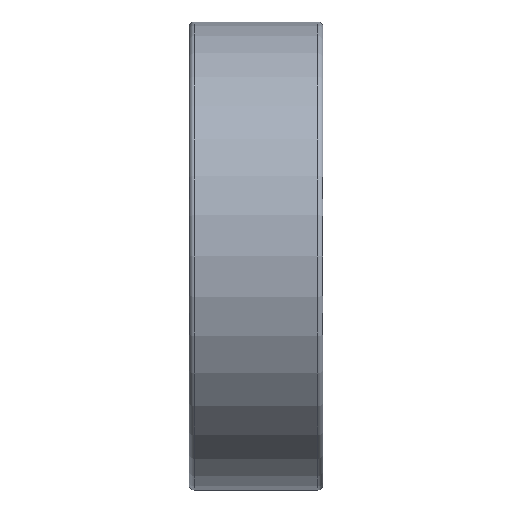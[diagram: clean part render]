
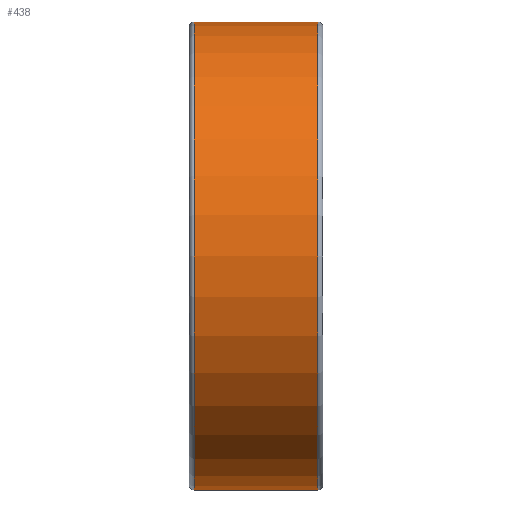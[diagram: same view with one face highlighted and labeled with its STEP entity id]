
A CAD part, front view. The second image highlights one B-rep face of the part: STEP entity #438.
In plain terms, the highlighted cylindrical face has radius 14 mm (diameter 28 mm), a full revolution.
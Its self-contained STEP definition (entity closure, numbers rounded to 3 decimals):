
#146=CYLINDRICAL_SURFACE('',#666,14.);
#218=EDGE_LOOP('',(#302));
#219=EDGE_LOOP('',(#303));
#302=ORIENTED_EDGE('',*,*,#352,.F.);
#303=ORIENTED_EDGE('',*,*,#350,.T.);
#350=EDGE_CURVE('',#607,#607,#370,.T.);
#352=EDGE_CURVE('',#609,#609,#372,.T.);
#370=CIRCLE('',#662,14.);
#372=CIRCLE('',#665,14.);
#438=ADVANCED_FACE('',(#537,#538),#146,.T.);
#537=FACE_BOUND('',#218,.T.);
#538=FACE_BOUND('',#219,.T.);
#607=VERTEX_POINT('',#2170);
#609=VERTEX_POINT('',#2175);
#662=AXIS2_PLACEMENT_3D('',#2169,#769,#770);
#665=AXIS2_PLACEMENT_3D('',#2174,#775,#776);
#666=AXIS2_PLACEMENT_3D('',#2176,#777,#778);
#769=DIRECTION('',(1.,0.,0.));
#770=DIRECTION('',(0.,0.,-1.));
#775=DIRECTION('',(1.,0.,0.));
#776=DIRECTION('',(0.,0.,-1.));
#777=DIRECTION('',(1.,0.,0.));
#778=DIRECTION('',(0.,0.,-1.));
#2169=CARTESIAN_POINT('',(-3.7,0.,0.));
#2170=CARTESIAN_POINT('',(-3.7,0.,-14.));
#2174=CARTESIAN_POINT('',(3.7,0.,0.));
#2175=CARTESIAN_POINT('',(3.7,0.,-14.));
#2176=CARTESIAN_POINT('',(-3.7,0.,0.));
